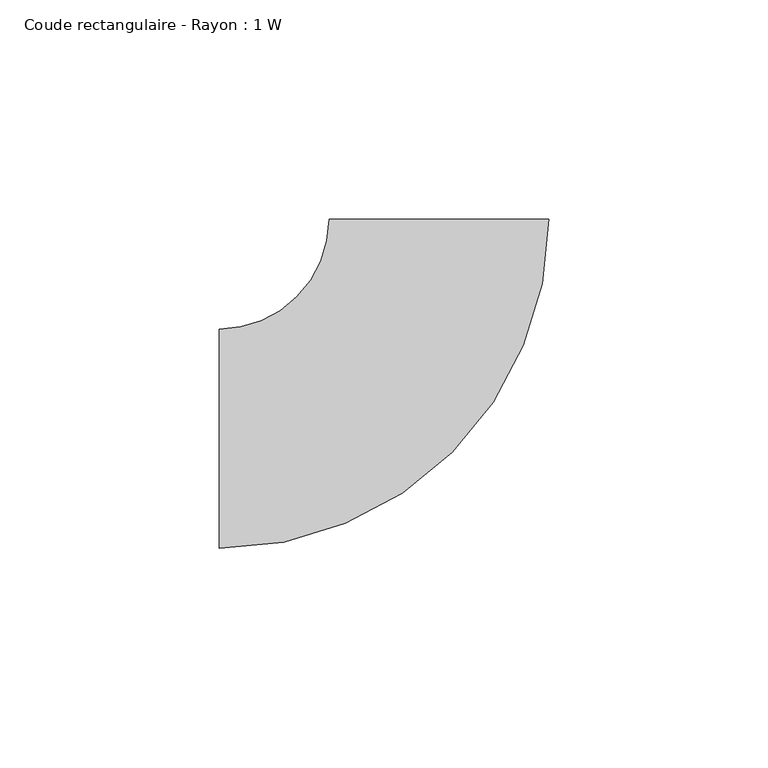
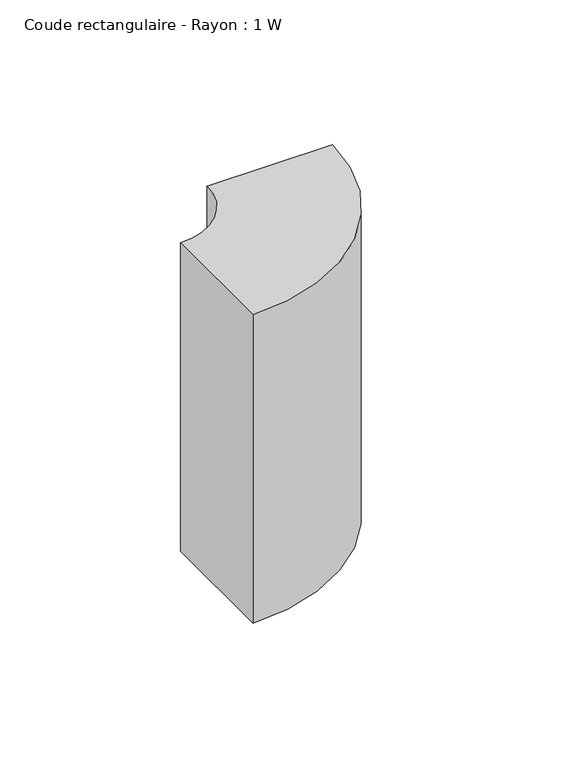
"""IFC4 building model written with IfcOpenShell, lengths in millimetres: duct fitting geometry, Coude rectangulaire - Rayon : 1 W."""

from ifc_helpers import new_model, si_unit, point, frame, frame_2d, origin, place, context, project, spatial, polyline, circle_curve, trimmed, segment, composite_curve, outline, extrude, source, transform, mapped, element, save


def coude_rectangulaire_rayon_1_w_36dd7708(model_context):
    return source(origin(), model_context, "Body", "SweptSolid", [
        extrude(outline(composite_curve([segment(trimmed(circle_curve(frame_2d((-49.9975573, 50.0)), 75.0), [point((25.0024426, 49.9963359))], [point((-49.9975573, -25.0))], False, "CARTESIAN"), True, "CONTINUOUS"), segment(polyline([(-49.9975573, -25.0), (-49.9975573, 25.0)]), True, "CONTINUOUS"), segment(trimmed(circle_curve(frame_2d((-49.9975573, 50.0)), 25.0), [point((-49.9975573, 25.0))], [point((-24.9975574, 49.9987786))], True, "CARTESIAN"), True, "CONTINUOUS"), segment(polyline([(-24.9975574, 49.9987786), (25.0024426, 49.9963359)]), True, "CONTINUOUS")], self_intersect=False)), frame((0.0, 0.0, -65.0), z_axis=(0.0, 0.0, 1.0), x_axis=(1.0, 0.0, 0.0)), (0.0, 0.0, 1.0), 130.0),
    ])


if __name__ == "__main__":
    model = new_model("IFC4")
    model_context = context("Model", 3, world=origin())
    ifc_project = project(units=[si_unit("LENGTHUNIT", "METRE", prefix="MILLI")], contexts=[model_context])
    site = spatial("IfcSite", under=ifc_project)
    building = spatial("IfcBuilding", under=site)
    placement = place(None, origin())
    coude_rectangulaire_rayon_1_w_shape = coude_rectangulaire_rayon_1_w_36dd7708(model_context)
    element("IfcDuctFitting", 1, ObjectType="Coude rectangulaire - Rayon : 1 W", at=placement, inside=building, context=model_context, shape_type="MappedRepresentation", body=[
        mapped(coude_rectangulaire_rayon_1_w_shape, transform((0.0, 0.0, 0.0), x_axis=(1.0, 0.0, 0.0), y_axis=(0.0, 1.0, 0.0), z_axis=(0.0, 0.0, 1.0))),
    ])
    save(model, "model.ifc")
